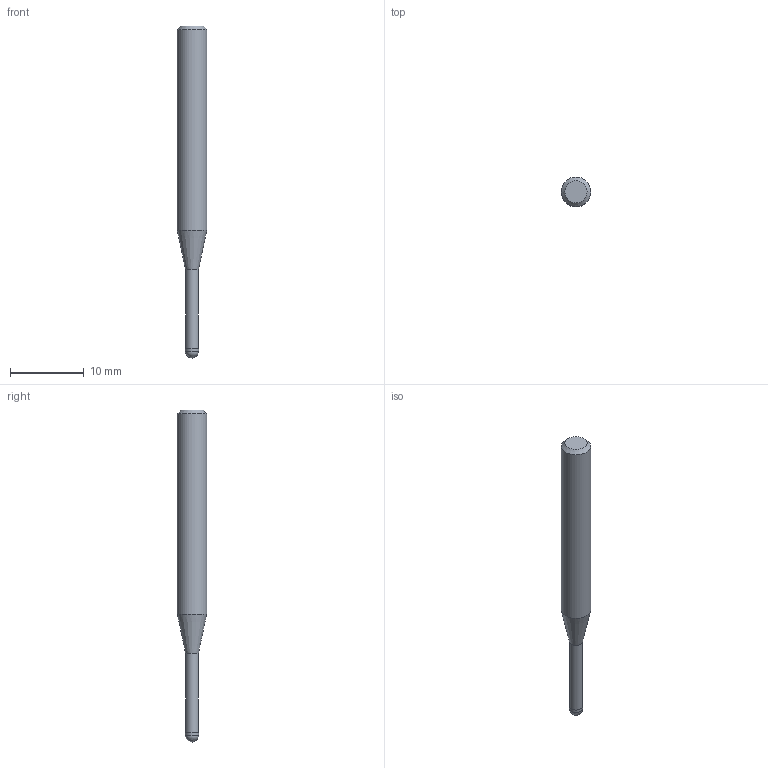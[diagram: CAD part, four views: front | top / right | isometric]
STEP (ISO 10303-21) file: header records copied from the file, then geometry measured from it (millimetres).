
FILE_DESCRIPTION((''),'2;1');
FILE_NAME('C:\Users\nsx150\AppData\Local\Temp\Mastercam 2021\3SYKECWX22\TEMP.step','2021-04-22T10:03:47',(''),(''),'STEP Write','Mastercam 2021 ... CNC Software, Inc.','');
FILE_SCHEMA(('AUTOMOTIVE_DESIGN'));
Length unit declared in the file: millimetre
Products named in the file (1): None
Bounding box: 4 x 4 x 45 mm (x, y, z)
Volume: 411.1 mm3; surface area: 476.7 mm2
Topology: 2 solids, 2 shells, 9 faces, 14 edges, 8 vertices
Faces by surface type: plane 3, cylinder 3, cone 2, sphere 1
Full cylindrical faces by diameter (mm): 1.75 x1, 1.8 x1, 4 x1
Entity records: 211 total; most frequent: DIRECTION 36, CARTESIAN_POINT 25, AXIS2_PLACEMENT_3D 18, ORIENTED_EDGE 14, EDGE_LOOP 14, STYLED_ITEM 12, ADVANCED_FACE 9, FACE_BOUND 8
